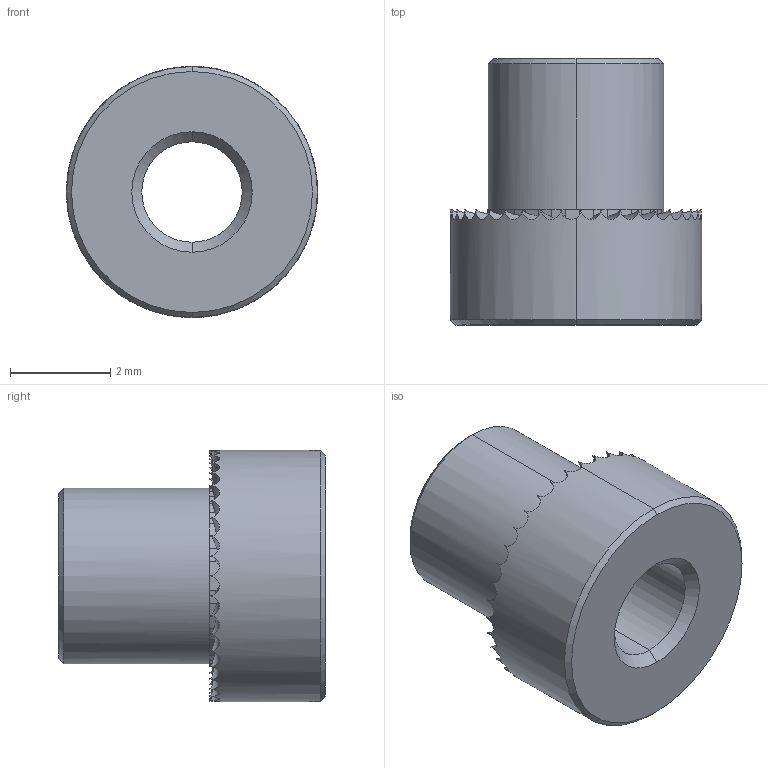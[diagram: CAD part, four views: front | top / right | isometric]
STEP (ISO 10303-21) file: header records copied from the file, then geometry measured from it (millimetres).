
FILE_DESCRIPTION (( 'STEP AP203' ), '1' );
FILE_NAME ('P0829.020-12G-ZP.step', '2019-03-21T22:09:57', ( '' ), ( '' ), 'SwSTEP 2.0', 'SolidWorks 2017', '' );
FILE_SCHEMA (( 'CONFIG_CONTROL_DESIGN' ));
Length unit declared in the file: millimetre
Products named in the file (1): P0829.020-12G-ZP
Bounding box: 5 x 5.3 x 5 mm (x, y, z)
Volume: 55.3 mm3; surface area: 134.4 mm2
Topology: 1 solids, 1 shells, 172 faces, 424 edges, 254 vertices
Faces by surface type: plane 119, cylinder 45, cone 8
Entity records: 5343 total; most frequent: CARTESIAN_POINT 1317, ORIENTED_EDGE 848, DIRECTION 825, EDGE_CURVE 424, AXIS2_PLACEMENT_3D 308, VERTEX_POINT 254, LINE 209, VECTOR 209
